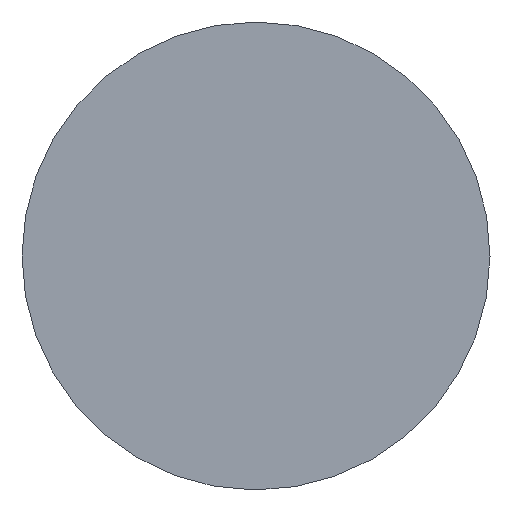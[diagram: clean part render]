
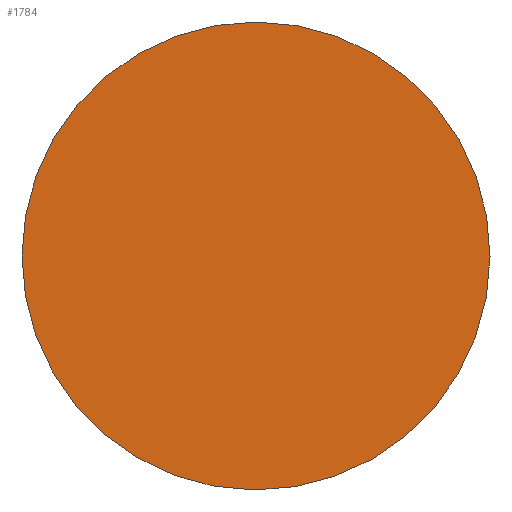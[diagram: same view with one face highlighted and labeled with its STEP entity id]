
A CAD part, top view. The second image highlights one B-rep face of the part: STEP entity #1784.
In plain terms, the highlighted planar face has unit normal (0, 0, 1).
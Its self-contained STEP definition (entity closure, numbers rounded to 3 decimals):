
#17 = DIRECTION ( 'NONE',  ( -1., 0., 0. ) ) ;
#27 = CARTESIAN_POINT ( 'NONE',  ( 17.5, 0., 45. ) ) ;
#280 = DIRECTION ( 'NONE',  ( 0., 0., -1. ) ) ;
#332 = AXIS2_PLACEMENT_3D ( 'NONE', #27, #688, #17 ) ;
#480 = ORIENTED_EDGE ( 'NONE', *, *, #668, .F. ) ;
#668 = EDGE_CURVE ( 'NONE', #1145, #1145, #1112, .T. ) ;
#688 = DIRECTION ( 'NONE',  ( 0., 0., -1. ) ) ;
#697 = PLANE ( 'NONE',  #332 ) ;
#1112 = CIRCLE ( 'NONE', #1451, 17.5 ) ;
#1145 = VERTEX_POINT ( 'NONE', #1625 ) ;
#1346 = EDGE_LOOP ( 'NONE', ( #480 ) ) ;
#1451 = AXIS2_PLACEMENT_3D ( 'NONE', #1900, #280, #1597 ) ;
#1597 = DIRECTION ( 'NONE',  ( -1., 0., 0. ) ) ;
#1625 = CARTESIAN_POINT ( 'NONE',  ( -17.5, 0., 45. ) ) ;
#1642 = FACE_OUTER_BOUND ( 'NONE', #1346, .T. ) ;
#1784 = ADVANCED_FACE ( 'NONE', ( #1642 ), #697, .F. ) ;
#1900 = CARTESIAN_POINT ( 'NONE',  ( 0., 0., 45. ) ) ;
